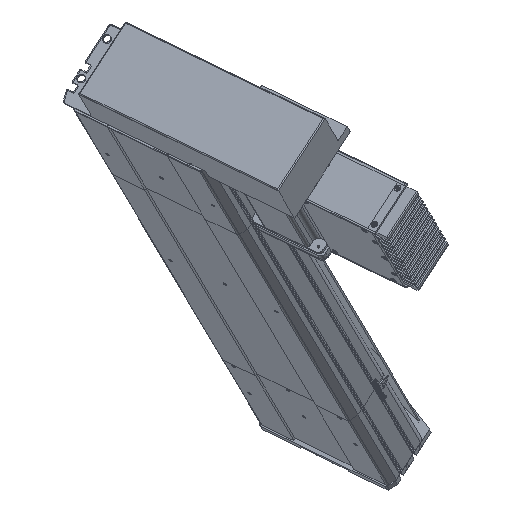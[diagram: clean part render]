
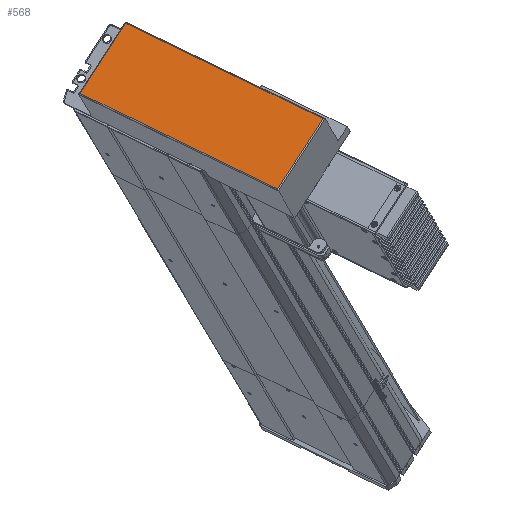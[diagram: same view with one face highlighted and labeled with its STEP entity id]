
A CAD part, top view. The second image highlights one B-rep face of the part: STEP entity #568.
In plain terms, the highlighted planar face has unit normal (-0.256, 0.429, 0.866) as drawn and (0, 0, 1) by its records, which use the part's own axes.
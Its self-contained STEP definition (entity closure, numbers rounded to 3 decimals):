
#462 = EDGE_LOOP ( 'NONE', ( #577, #564, #575, #570 ) ) ;
#463 = EDGE_CURVE ( 'NONE', #477, #478, #17607, .T. ) ;
#469 = EDGE_CURVE ( 'NONE', #566, #477, #17701, .T. ) ;
#477 = VERTEX_POINT ( 'NONE', #17180 ) ;
#478 = VERTEX_POINT ( 'NONE', #17162 ) ;
#564 = ORIENTED_EDGE ( 'NONE', *, *, #578, .T. ) ;
#566 = VERTEX_POINT ( 'NONE', #17930 ) ;
#568 = ADVANCED_FACE ( 'NONE', ( #18015 ), #17996, .T. ) ;
#570 = ORIENTED_EDGE ( 'NONE', *, *, #469, .T. ) ;
#575 = ORIENTED_EDGE ( 'NONE', *, *, #581, .T. ) ;
#577 = ORIENTED_EDGE ( 'NONE', *, *, #463, .T. ) ;
#578 = EDGE_CURVE ( 'NONE', #478, #586, #18082, .T. ) ;
#581 = EDGE_CURVE ( 'NONE', #586, #566, #18065, .T. ) ;
#586 = VERTEX_POINT ( 'NONE', #18032 ) ;
#17162 = CARTESIAN_POINT ( 'NONE',  ( 163.25, 1., 44. ) ) ;
#17180 = CARTESIAN_POINT ( 'NONE',  ( -34.75, 1., 44. ) ) ;
#17607 = LINE ( 'NONE', #17624, #17733 ) ;
#17624 = CARTESIAN_POINT ( 'NONE',  ( 164.25, 1., 44. ) ) ;
#17696 = DIRECTION ( 'NONE',  ( 0., -1., 0. ) ) ;
#17698 = VECTOR ( 'NONE', #17696, 1000. ) ;
#17700 = CARTESIAN_POINT ( 'NONE',  ( -34.75, 0., 44. ) ) ;
#17701 = LINE ( 'NONE', #17700, #17698 ) ;
#17723 = DIRECTION ( 'NONE',  ( 1., 0., 0. ) ) ;
#17733 = VECTOR ( 'NONE', #17723, 1000. ) ;
#17919 = AXIS2_PLACEMENT_3D ( 'NONE', #17986, #17985, #17984 ) ;
#17930 = CARTESIAN_POINT ( 'NONE',  ( -34.75, 71., 44. ) ) ;
#17984 = DIRECTION ( 'NONE',  ( 1., 0., 0. ) ) ;
#17985 = DIRECTION ( 'NONE',  ( 0., 0., 1. ) ) ;
#17986 = CARTESIAN_POINT ( 'NONE',  ( -35.75, 0., 44. ) ) ;
#17996 = PLANE ( 'NONE',  #17919 ) ;
#18015 = FACE_OUTER_BOUND ( 'NONE', #462, .T. ) ;
#18032 = CARTESIAN_POINT ( 'NONE',  ( 163.25, 71., 44. ) ) ;
#18058 = DIRECTION ( 'NONE',  ( -1., 0., 0. ) ) ;
#18060 = VECTOR ( 'NONE', #18058, 1000. ) ;
#18063 = CARTESIAN_POINT ( 'NONE',  ( -35.75, 71., 44. ) ) ;
#18065 = LINE ( 'NONE', #18063, #18060 ) ;
#18070 = DIRECTION ( 'NONE',  ( 0., 1., 0. ) ) ;
#18071 = VECTOR ( 'NONE', #18070, 1000. ) ;
#18073 = CARTESIAN_POINT ( 'NONE',  ( 163.25, 72., 44. ) ) ;
#18082 = LINE ( 'NONE', #18073, #18071 ) ;
